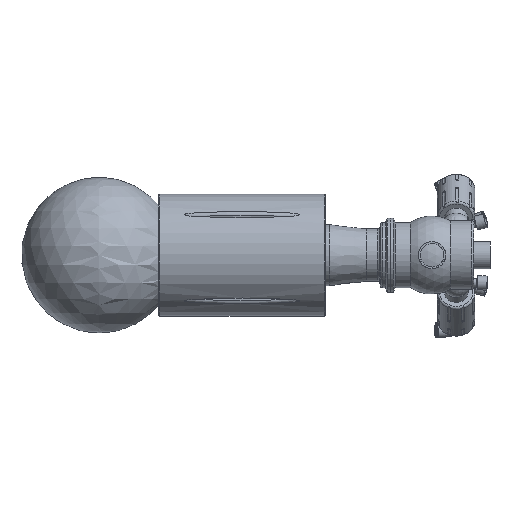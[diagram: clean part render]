
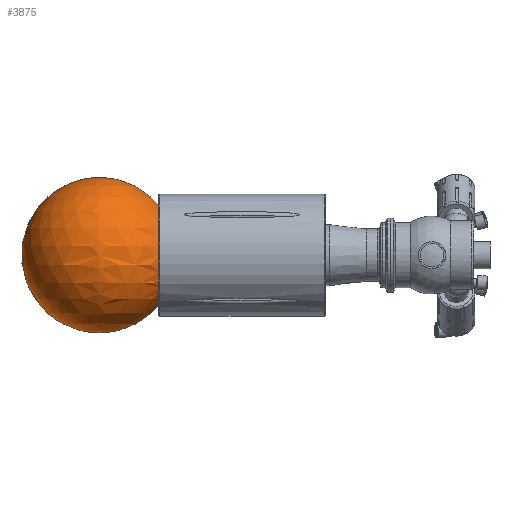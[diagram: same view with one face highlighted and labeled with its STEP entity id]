
A CAD part, left-side view. The second image highlights one B-rep face of the part: STEP entity #3875.
In plain terms, the highlighted spherical face has radius 72.5 mm.
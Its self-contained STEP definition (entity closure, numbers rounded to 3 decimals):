
#83=SPHERICAL_SURFACE('',#4305,72.5);
#98=FACE_BOUND('',#722,.T.);
#502=FACE_OUTER_BOUND('',#721,.T.);
#721=EDGE_LOOP('',(#2809,#2810));
#722=EDGE_LOOP('',(#2811));
#1351=CIRCLE('',#4306,72.5);
#1352=CIRCLE('',#4307,46.648);
#1646=VERTEX_POINT('',#6497);
#1647=VERTEX_POINT('',#6498);
#1648=VERTEX_POINT('',#6500);
#2104=EDGE_CURVE('',#1646,#1647,#1351,.T.);
#2105=EDGE_CURVE('',#1648,#1648,#1352,.T.);
#2809=ORIENTED_EDGE('',*,*,#2104,.T.);
#2810=ORIENTED_EDGE('',*,*,#2104,.F.);
#2811=ORIENTED_EDGE('',*,*,#2105,.F.);
#3875=ADVANCED_FACE('',(#502,#98),#83,.T.);
#4305=AXIS2_PLACEMENT_3D('',#6496,#4915,#4916);
#4306=AXIS2_PLACEMENT_3D('',#6499,#4917,#4918);
#4307=AXIS2_PLACEMENT_3D('',#6501,#4919,#4920);
#4915=DIRECTION('center_axis',(0.,0.,1.));
#4916=DIRECTION('ref_axis',(1.,0.,0.));
#4917=DIRECTION('center_axis',(0.,-1.,0.));
#4918=DIRECTION('ref_axis',(-1.,0.,0.));
#4919=DIRECTION('center_axis',(0.,-1.,0.));
#4920=DIRECTION('ref_axis',(1.,0.,0.));
#6496=CARTESIAN_POINT('Origin',(150.,266.5,0.));
#6497=CARTESIAN_POINT('',(150.,266.5,72.5));
#6498=CARTESIAN_POINT('',(150.,266.5,-72.5));
#6499=CARTESIAN_POINT('Origin',(150.,266.5,0.));
#6500=CARTESIAN_POINT('',(196.648,211.,0.));
#6501=CARTESIAN_POINT('Origin',(150.,211.,0.));
